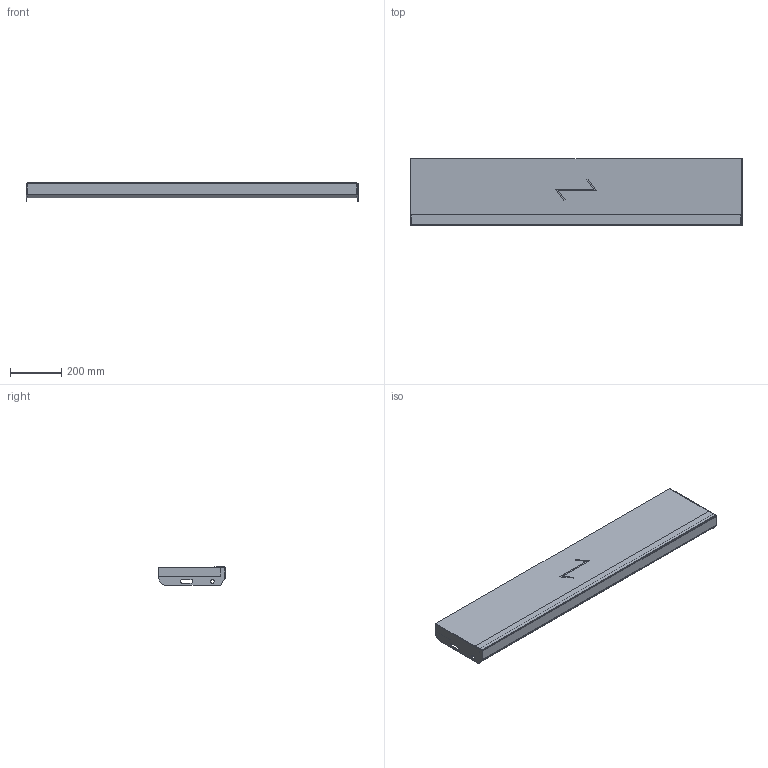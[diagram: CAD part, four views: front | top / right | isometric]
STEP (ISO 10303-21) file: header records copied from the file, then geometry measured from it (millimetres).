
FILE_DESCRIPTION (( 'STEP AP203' ), '1' );
FILE_NAME ('StegTH6-S-nya_steget-1300x260.STEP', '2020-03-04T07:46:06', ( '' ), ( '' ), 'SwSTEP 2.0', 'SolidWorks 2019', '' );
FILE_SCHEMA (( 'CONFIG_CONTROL_DESIGN' ));
Length unit declared in the file: millimetre
Products named in the file (5): SW0000039582; StegTH6-S-nya_steget-1300x260; SW0000038993; SW0000039255; SW0000038702
Assembly tree (5 placements, depth 3):
  StegTH6-S-nya_steget-1300x260
    SW0000039582
      SW0000038993
      SW0000039255
      SW0000038702  x2
Bounding box: 1300 x 260 x 72 mm (x, y, z)
Volume: 11361058.3 mm3; surface area: 1068594.7 mm2
Topology: 4 solids, 4 shells, 67 faces, 158 edges, 100 vertices
Faces by surface type: plane 51, cylinder 16
Entity records: 2002 total; most frequent: DIRECTION 261, CARTESIAN_POINT 254, ORIENTED_EDGE 238, EDGE_CURVE 119, VECTOR 99, LINE 99, AXIS2_PLACEMENT_3D 81, VERTEX_POINT 74
